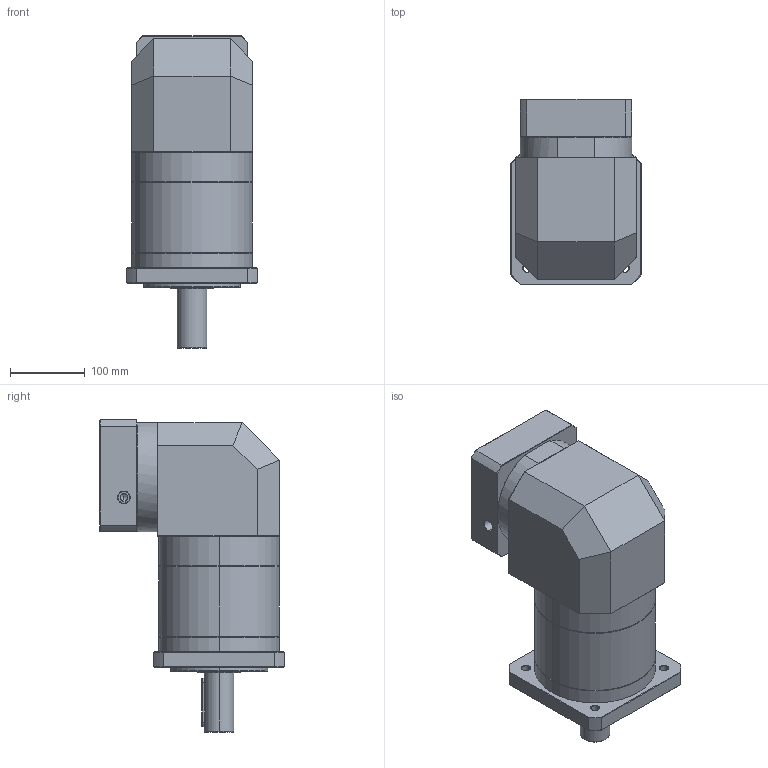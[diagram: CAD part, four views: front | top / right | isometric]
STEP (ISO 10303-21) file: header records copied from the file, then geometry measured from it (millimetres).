
FILE_DESCRIPTION (( 'STEP AP214' ), '1' );
FILE_NAME ('ZFR160A-D40-L3-P2-28-130-165-M10.step', '2023-09-03T08:59:05', ( '' ), ( '' ), 'SwSTEP 2.0', 'SolidWorks 2016', '' );
FILE_SCHEMA (( 'AUTOMOTIVE_DESIGN' ));
Length unit declared in the file: millimetre
Products named in the file (1): ZFR160A-D40-L3-P2-28-130-165-M10
Bounding box: 175 x 247.5 x 418.7 mm (x, y, z)
Volume: 8276242.1 mm3; surface area: 481393.8 mm2
Topology: 6 solids, 6 shells, 2211 faces, 5835 edges, 3731 vertices
Faces by surface type: plane 1048, cylinder 416, bspline 414, cone 311, torus 22
Entity records: 126758 total; most frequent: CARTESIAN_POINT 53157, ORIENTED_EDGE 11610, DIRECTION 8405, EDGE_CURVE 5805, VERTEX_POINT 3731, LINE 3097, VECTOR 3097, AXIS2_PLACEMENT_3D 2654
